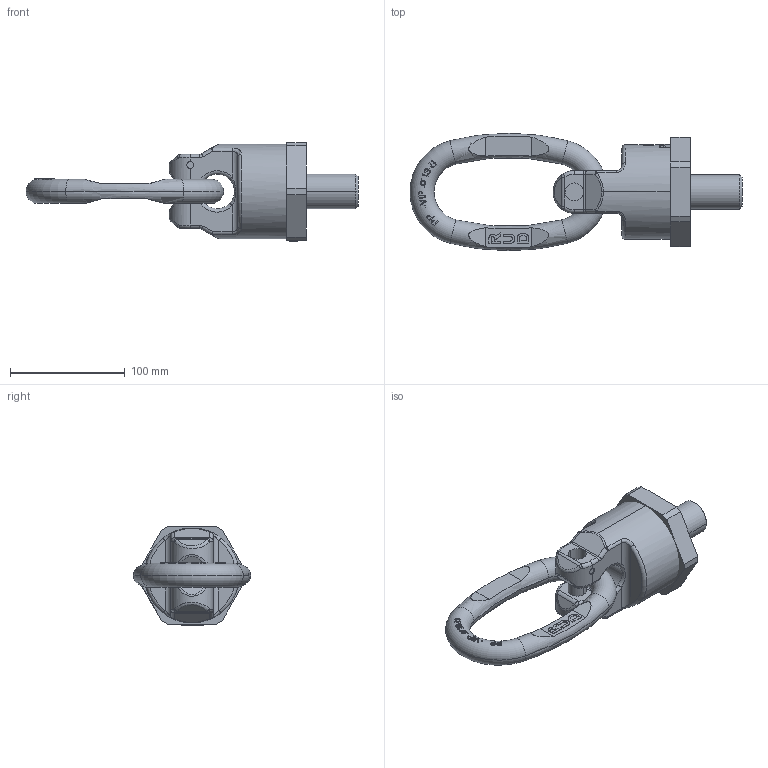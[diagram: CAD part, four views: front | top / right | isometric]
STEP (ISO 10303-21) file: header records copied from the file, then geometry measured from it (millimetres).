
FILE_DESCRIPTION((''),'2;1');
FILE_NAME('001-M31395-P-20_ASM','2018-04-27T',('Anja.Joas'),(''),'PRO/ENGINEER BY PARAMETRIC TECHNOLOGY CORPORATION, 2011490','PRO/ENGINEER BY PARAMETRIC TECHNOLOGY CORPORATION, 2011490','');
FILE_SCHEMA(('CONFIG_CONTROL_DESIGN'));
Length unit declared in the file: millimetre
Products named in the file (4): 001-M31395-P-20; 001-M31395-P-40; 001-M31290-004; 001-M31395-P-20_ASM
Assembly tree (3 placements, depth 2):
  001-M31395-P-20_ASM
    001-M31395-P-20
    001-M31395-P-40
    001-M31290-004
Bounding box: 289 x 102 x 86 mm (x, y, z)
Volume: 608967.3 mm3; surface area: 82961 mm2
Topology: 3 solids, 3 shells, 912 faces, 2494 edges, 1636 vertices
Faces by surface type: plane 781, cylinder 66, torus 32, bspline 26, sphere 4, cone 2, extrusion 1
Entity records: 30933 total; most frequent: CARTESIAN_POINT 8542, ORIENTED_EDGE 4988, DIRECTION 4053, EDGE_CURVE 2494, VECTOR 1753, LINE 1752, VERTEX_POINT 1636, AXIS2_PLACEMENT_3D 1150
